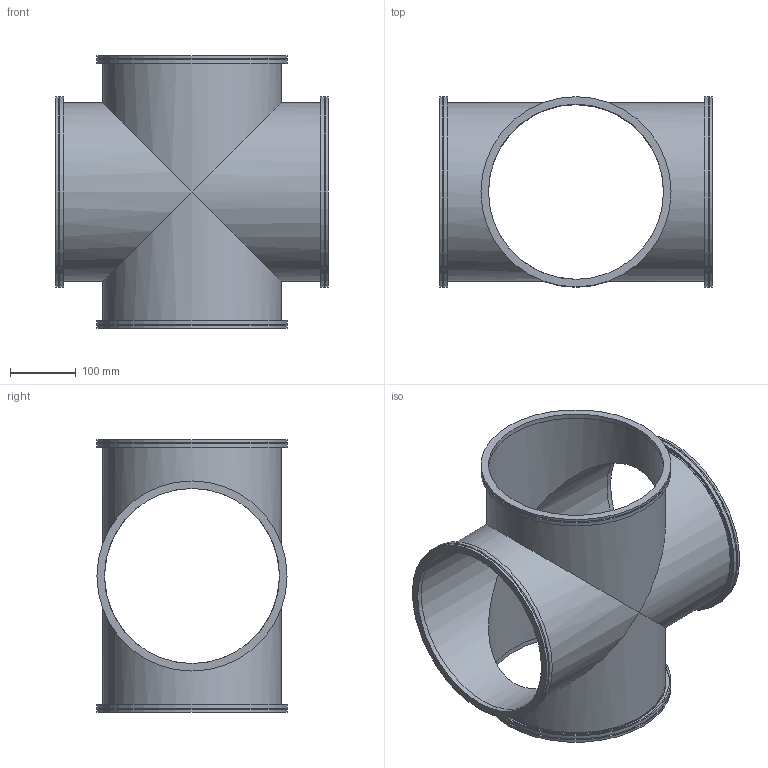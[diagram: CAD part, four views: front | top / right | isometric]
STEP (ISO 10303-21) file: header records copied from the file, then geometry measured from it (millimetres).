
FILE_DESCRIPTION( ( 'Unknown' ), '1' );
FILE_NAME( 'X:/Daten ( aktueller Bestand )/Projekte und Zeichnungen/Solid Edge/STP-Dateien/ISO-K Teile und Zubehör/61154.stp', 'Unknown', ( 'Unknown' ), ( 'Unknown' ), 'PSStep 14.0', 'Unknown', ' ' );
FILE_SCHEMA( ( 'AUTOMOTIVE_DESIGN { 1 0 10303 214 1 1 1 1 }' ) );
Length unit declared in the file: millimetre
Products named in the file (3): Assem1; 6515-1; 6115-1
Assembly tree (5 placements, depth 2):
  Assem1
    6515-1  x4
    6115-1
Bounding box: 416 x 290 x 416 mm (x, y, z)
Volume: 1558681.5 mm3; surface area: 970243.7 mm2
Topology: 5 solids, 5 shells, 60 faces, 104 edges, 64 vertices
Faces by surface type: cylinder 32, plane 24, torus 4
Full cylindrical faces by diameter (mm): 267 x8, 273 x4, 273.5 x4, 275 x4, 285 x4, 290 x8
Entity records: 794 total; most frequent: DIRECTION 116, CARTESIAN_POINT 82, AXIS2_PLACEMENT_3D 58, ORIENTED_EDGE 56, EDGE_LOOP 48, FACE_OUTER_BOUND 39, EDGE_CURVE 28, STYLED_ITEM 24
